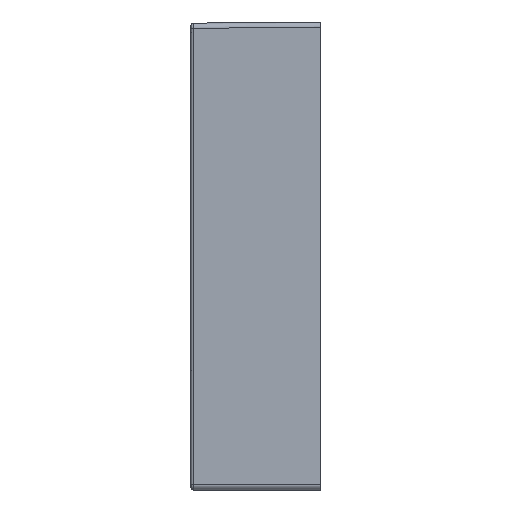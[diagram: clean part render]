
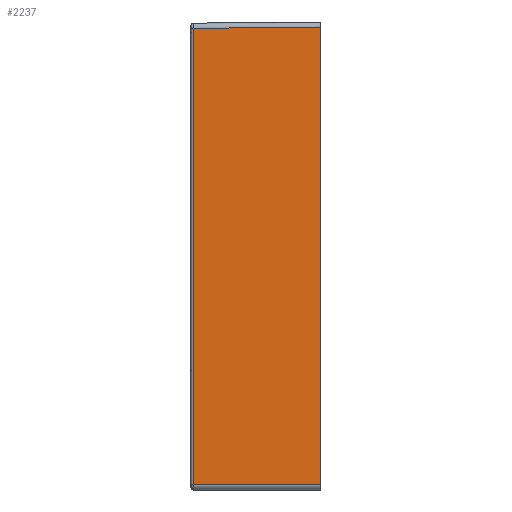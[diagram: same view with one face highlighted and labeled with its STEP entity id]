
A CAD part, left-side view. The second image highlights one B-rep face of the part: STEP entity #2237.
In plain terms, the highlighted planar face has unit normal (-1, 0.009, 0).
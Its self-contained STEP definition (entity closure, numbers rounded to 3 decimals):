
#1240 = ORIENTED_EDGE ( 'NONE', *, *, #15301, .T. ) ;
#2237 = ADVANCED_FACE ( 'NONE', ( #12197 ), #14167, .T. ) ;
#3733 = VECTOR ( 'NONE', #19335, 1000. ) ;
#4657 = ORIENTED_EDGE ( 'NONE', *, *, #22395, .T. ) ;
#4766 = EDGE_CURVE ( 'NONE', #19320, #17973, #16572, .T. ) ;
#5318 = CARTESIAN_POINT ( 'NONE',  ( -374.981, 2.138, 244.982 ) ) ;
#5552 = AXIS2_PLACEMENT_3D ( 'NONE', #16781, #14085, #14617 ) ;
#6384 = CARTESIAN_POINT ( 'NONE',  ( -373.926, 123.017, 243.927 ) ) ;
#7620 = CARTESIAN_POINT ( 'NONE',  ( -375., 0., -195. ) ) ;
#9024 = DIRECTION ( 'NONE',  ( 0., 0., 1. ) ) ;
#9398 = ORIENTED_EDGE ( 'NONE', *, *, #4766, .T. ) ;
#10959 = LINE ( 'NONE', #11380, #19764 ) ;
#11099 = VERTEX_POINT ( 'NONE', #6384 ) ;
#11380 = CARTESIAN_POINT ( 'NONE',  ( -373.926, 123.017, -195. ) ) ;
#11764 = EDGE_CURVE ( 'NONE', #13246, #19320, #13051, .T. ) ;
#12197 = FACE_OUTER_BOUND ( 'NONE', #12598, .T. ) ;
#12495 = VECTOR ( 'NONE', #12855, 1000. ) ;
#12598 = EDGE_LOOP ( 'NONE', ( #1240, #4657, #13923, #9398 ) ) ;
#12855 = DIRECTION ( 'NONE',  ( -0.009, -1., 0. ) ) ;
#13051 = LINE ( 'NONE', #7620, #12495 ) ;
#13142 = DIRECTION ( 'NONE',  ( 0., 0., -1. ) ) ;
#13246 = VERTEX_POINT ( 'NONE', #19163 ) ;
#13923 = ORIENTED_EDGE ( 'NONE', *, *, #11764, .T. ) ;
#14085 = DIRECTION ( 'NONE',  ( -1., 0.009, 0. ) ) ;
#14167 = PLANE ( 'NONE',  #5552 ) ;
#14617 = DIRECTION ( 'NONE',  ( -0.009, -1., 0. ) ) ;
#15301 = EDGE_CURVE ( 'NONE', #17973, #11099, #21816, .T. ) ;
#16038 = VECTOR ( 'NONE', #9024, 1000. ) ;
#16572 = LINE ( 'NONE', #21210, #16038 ) ;
#16781 = CARTESIAN_POINT ( 'NONE',  ( -375., 0., 0. ) ) ;
#17973 = VERTEX_POINT ( 'NONE', #20313 ) ;
#19163 = CARTESIAN_POINT ( 'NONE',  ( -373.926, 123.017, -195. ) ) ;
#19293 = CARTESIAN_POINT ( 'NONE',  ( -375., 0., -195. ) ) ;
#19320 = VERTEX_POINT ( 'NONE', #19293 ) ;
#19335 = DIRECTION ( 'NONE',  ( 0.009, 1., -0.009 ) ) ;
#19764 = VECTOR ( 'NONE', #13142, 1000. ) ;
#20313 = CARTESIAN_POINT ( 'NONE',  ( -375., 0., 245. ) ) ;
#21210 = CARTESIAN_POINT ( 'NONE',  ( -375., 0., 0. ) ) ;
#21816 = LINE ( 'NONE', #5318, #3733 ) ;
#22395 = EDGE_CURVE ( 'NONE', #11099, #13246, #10959, .T. ) ;
